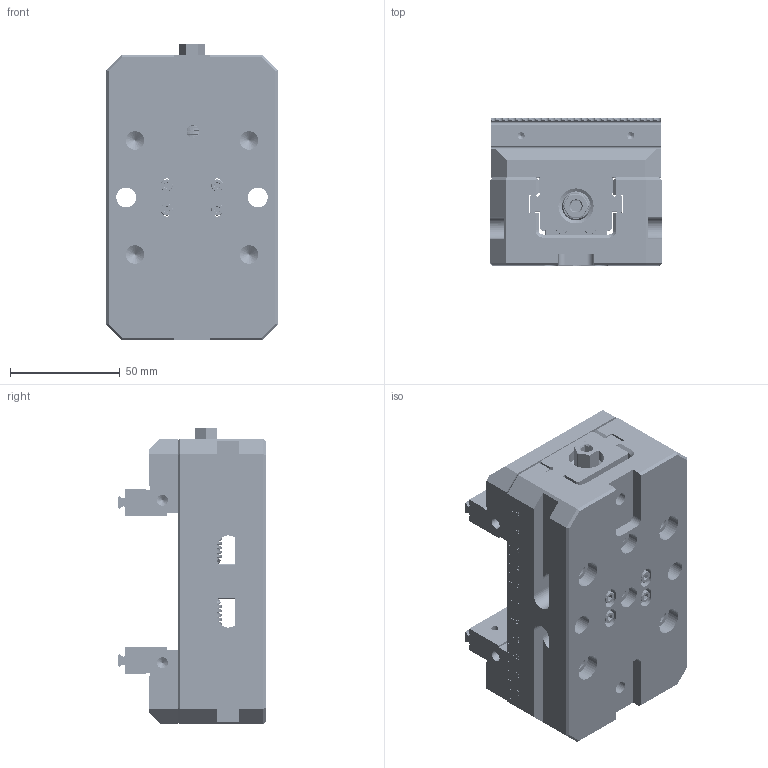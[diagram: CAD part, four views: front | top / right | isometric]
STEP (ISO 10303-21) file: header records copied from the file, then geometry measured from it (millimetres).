
FILE_DESCRIPTION (( 'STEP AP214' ), '1' );
FILE_NAME ('05-0013.STEP', '2022-11-10T18:06:13', ( '' ), ( '' ), 'SwSTEP 2.0', 'SolidWorks 2021', '' );
FILE_SCHEMA (( 'AUTOMOTIVE_DESIGN' ));
Length unit declared in the file: inch
Products named in the file (1): 05-0013
Bounding box: 78 x 67 x 135 mm (x, y, z)
Volume: 379618.6 mm3; surface area: 114452.1 mm2
Topology: 20 solids, 20 shells, 4916 faces, 13601 edges, 8906 vertices
Faces by surface type: plane 2457, cylinder 1591, bspline 576, cone 292
Entity records: 275575 total; most frequent: CARTESIAN_POINT 97727, ORIENTED_EDGE 27086, DIRECTION 19205, EDGE_CURVE 13543, VERTEX_POINT 8906, LINE 8519, VECTOR 8519, AXIS2_PLACEMENT_3D 5343
